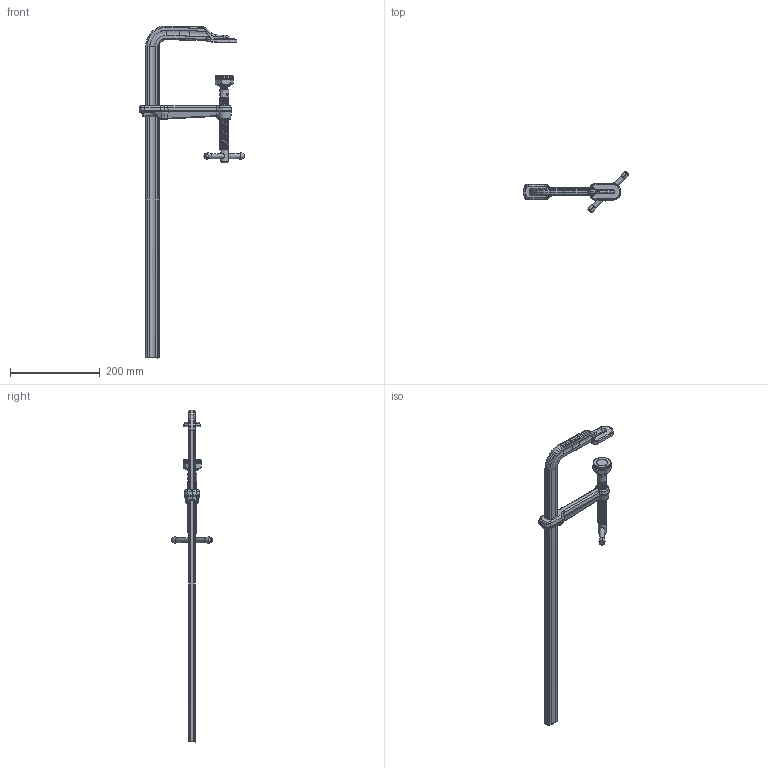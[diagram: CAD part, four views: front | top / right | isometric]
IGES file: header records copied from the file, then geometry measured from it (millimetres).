
Start section: ZWSOFT
Global section: file name: GSM60_CSG60.igs; native system: ZW3D; preprocessor: 1.0; author: ZW3D; organization: ZWSOFT; date: 131203.165910; units: millimetre
Bounding box: 235.33 x 91.11 x 739.92 mm (x, y, z)
Surface area: 139389.8 mm2 (no closed solid volume)
Topology: 0 solids, 0 shells, 479 faces, 2607 edges, 2660 vertices
Faces by surface type: bspline 479
